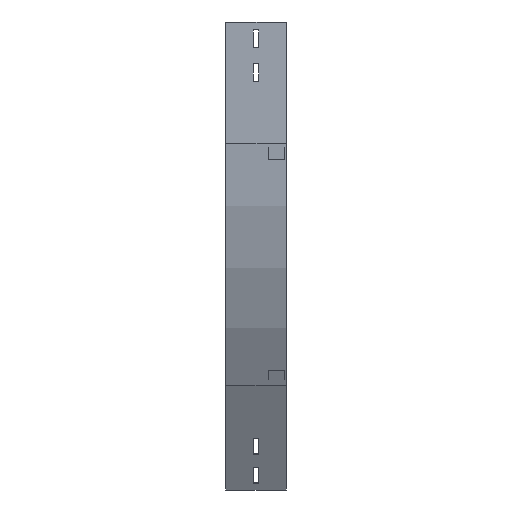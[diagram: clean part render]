
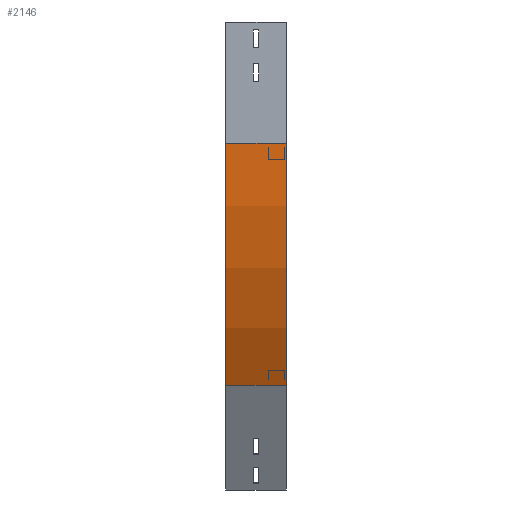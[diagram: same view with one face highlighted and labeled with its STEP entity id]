
A CAD part, left-side view. The second image highlights one B-rep face of the part: STEP entity #2146.
In plain terms, the highlighted cylindrical face has radius 600 mm (diameter 1200 mm), a partial arc.
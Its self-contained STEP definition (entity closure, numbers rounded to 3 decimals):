
#14 = VERTEX_POINT ( 'NONE', #593 ) ;
#287 = DIRECTION ( 'NONE',  ( 0., -1., 0. ) ) ;
#318 = CARTESIAN_POINT ( 'NONE',  ( 80.385, 0., -450. ) ) ;
#435 = EDGE_LOOP ( 'NONE', ( #1767, #1205, #2348, #3569 ) ) ;
#573 = DIRECTION ( 'NONE',  ( 0., 0., -1. ) ) ;
#593 = CARTESIAN_POINT ( 'NONE',  ( 0., 75., -150. ) ) ;
#650 = CARTESIAN_POINT ( 'NONE',  ( 80.385, 0., -450. ) ) ;
#681 = AXIS2_PLACEMENT_3D ( 'NONE', #1509, #2340, #573 ) ;
#795 = AXIS2_PLACEMENT_3D ( 'NONE', #1492, #287, #2107 ) ;
#817 = DIRECTION ( 'NONE',  ( 0., -1., 0. ) ) ;
#869 = LINE ( 'NONE', #1758, #1296 ) ;
#878 = EDGE_CURVE ( 'NONE', #3160, #2884, #3351, .T. ) ;
#904 = CYLINDRICAL_SURFACE ( 'NONE', #681, 600. ) ;
#922 = DIRECTION ( 'NONE',  ( 0., -1., 0. ) ) ;
#929 = CARTESIAN_POINT ( 'NONE',  ( 80.385, 75., -450. ) ) ;
#1147 = CARTESIAN_POINT ( 'NONE',  ( 600., 0., -150. ) ) ;
#1205 = ORIENTED_EDGE ( 'NONE', *, *, #1703, .F. ) ;
#1296 = VECTOR ( 'NONE', #2667, 1000. ) ;
#1492 = CARTESIAN_POINT ( 'NONE',  ( 600., 75., -150. ) ) ;
#1509 = CARTESIAN_POINT ( 'NONE',  ( 600., 0., -150. ) ) ;
#1659 = VERTEX_POINT ( 'NONE', #929 ) ;
#1703 = EDGE_CURVE ( 'NONE', #14, #3160, #869, .T. ) ;
#1758 = CARTESIAN_POINT ( 'NONE',  ( 0., 0., -150. ) ) ;
#1767 = ORIENTED_EDGE ( 'NONE', *, *, #878, .F. ) ;
#1786 = FACE_OUTER_BOUND ( 'NONE', #435, .T. ) ;
#1791 = EDGE_CURVE ( 'NONE', #14, #1659, #3660, .T. ) ;
#2107 = DIRECTION ( 'NONE',  ( -1., 0., 0. ) ) ;
#2146 = ADVANCED_FACE ( 'NONE', ( #1786 ), #904, .T. ) ;
#2220 = EDGE_CURVE ( 'NONE', #1659, #2884, #2992, .T. ) ;
#2311 = AXIS2_PLACEMENT_3D ( 'NONE', #1147, #817, #3490 ) ;
#2340 = DIRECTION ( 'NONE',  ( 0., -1., 0. ) ) ;
#2348 = ORIENTED_EDGE ( 'NONE', *, *, #1791, .T. ) ;
#2558 = VECTOR ( 'NONE', #922, 1000. ) ;
#2667 = DIRECTION ( 'NONE',  ( 0., -1., 0. ) ) ;
#2884 = VERTEX_POINT ( 'NONE', #650 ) ;
#2992 = LINE ( 'NONE', #318, #2558 ) ;
#3160 = VERTEX_POINT ( 'NONE', #3810 ) ;
#3351 = CIRCLE ( 'NONE', #2311, 600. ) ;
#3490 = DIRECTION ( 'NONE',  ( -1., 0., 0. ) ) ;
#3569 = ORIENTED_EDGE ( 'NONE', *, *, #2220, .T. ) ;
#3660 = CIRCLE ( 'NONE', #795, 600. ) ;
#3810 = CARTESIAN_POINT ( 'NONE',  ( 0., 0., -150. ) ) ;
